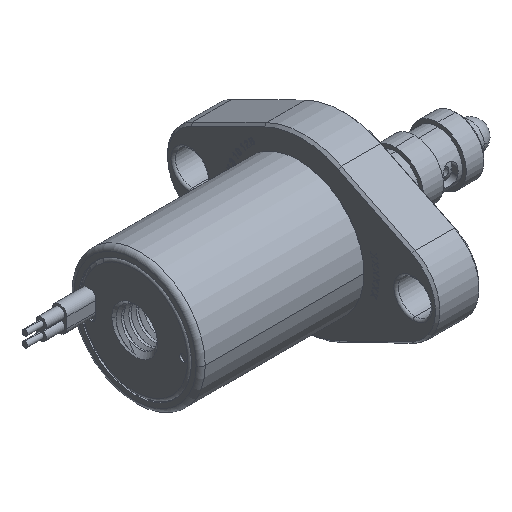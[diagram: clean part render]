
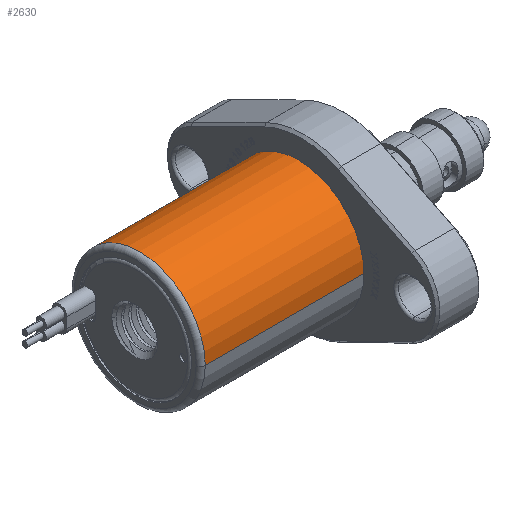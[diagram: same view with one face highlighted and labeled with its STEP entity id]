
A CAD part, isometric view. The second image highlights one B-rep face of the part: STEP entity #2630.
In plain terms, the highlighted cylindrical face has radius 7.303 mm (diameter 14.605 mm), a partial arc.
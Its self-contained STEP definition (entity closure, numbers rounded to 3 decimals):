
#2220=CARTESIAN_POINT('',(-7.527,3.313,0.));
#2230=DIRECTION('',(-1.,0.,0.));
#2240=DIRECTION('',(0.,1.,0.));
#2250=AXIS2_PLACEMENT_3D('',#2220,#2230,#2240);
#2260=CYLINDRICAL_SURFACE('',#2250,7.302);
#2270=CARTESIAN_POINT('',(-7.527,-3.99,
0.));
#2280=DIRECTION('',(-1.,0.,0.));
#2290=VECTOR('',#2280,1.);
#2300=LINE('',#2270,#2290);
#2310=CARTESIAN_POINT('',(1.611,-3.99,
0.));
#2320=VERTEX_POINT('',#2310);
#2330=CARTESIAN_POINT('',(-16.042,-3.99,0.));
#2340=VERTEX_POINT('',#2330);
#2350=EDGE_CURVE('',#2320,#2340,#2300,.T.);
#2360=ORIENTED_EDGE('',*,*,#2350,.F.);
#2370=CARTESIAN_POINT('',(-16.042,3.313,0.));
#2380=DIRECTION('',(-1.,0.,0.));
#2390=DIRECTION('',(0.,1.,0.));
#2400=AXIS2_PLACEMENT_3D('',#2370,#2380,#2390);
#2410=CIRCLE('',#2400,7.302);
#2420=CARTESIAN_POINT('',(-16.042,10.615,0.));
#2430=VERTEX_POINT('',#2420);
#2440=EDGE_CURVE('',#2340,#2430,#2410,.T.);
#2450=ORIENTED_EDGE('',*,*,#2440,.F.);
#2460=CARTESIAN_POINT('',(-7.527,10.615,0.));
#2470=DIRECTION('',(-1.,0.,0.));
#2480=VECTOR('',#2470,1.);
#2490=LINE('',#2460,#2480);
#2500=CARTESIAN_POINT('',(1.611,10.615,0.));
#2510=VERTEX_POINT('',#2500);
#2520=EDGE_CURVE('',#2510,#2430,#2490,.T.);
#2530=ORIENTED_EDGE('',*,*,#2520,.T.);
#2540=CARTESIAN_POINT('',(1.611,3.313,0.));
#2550=DIRECTION('',(-1.,0.,0.));
#2560=DIRECTION('',(0.,1.,0.));
#2570=AXIS2_PLACEMENT_3D('',#2540,#2550,#2560);
#2580=CIRCLE('',#2570,7.302);
#2590=EDGE_CURVE('',#2320,#2510,#2580,.T.);
#2600=ORIENTED_EDGE('',*,*,#2590,.T.);
#2610=EDGE_LOOP('',(#2600,#2530,#2450,#2360));
#2620=FACE_OUTER_BOUND('',#2610,.T.);
#2630=ADVANCED_FACE('',(#2620),#2260,.T.);
